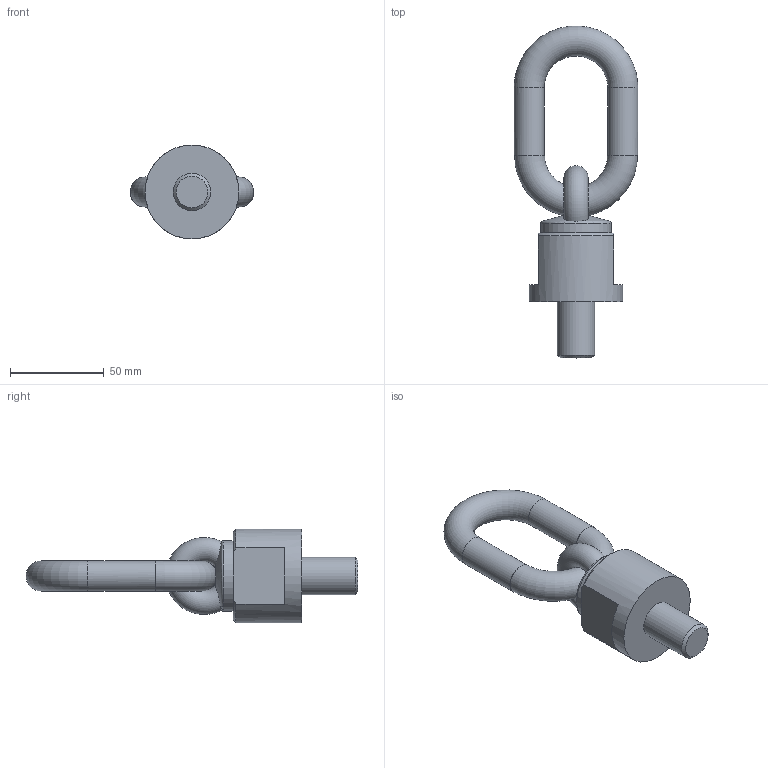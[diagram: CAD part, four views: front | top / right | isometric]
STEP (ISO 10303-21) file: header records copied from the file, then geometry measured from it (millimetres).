
FILE_DESCRIPTION( ( 'STEP AP203' ), '1' );
FILE_NAME( 'p:/temp/worker_2/temp/app_48_0201906261618327970660610e898ce_000000_00_00_000000/format_1/C8000202030.stp', '2019-06-26T14:18:35', ( '' ), ( '' ), ' ', 'PARTsolutions', ' ' );
FILE_SCHEMA( ( 'CONFIG_CONTROL_DESIGN' ) );
Length unit declared in the file: millimetre
Products named in the file (1): _C8000202030
Bounding box: 66 x 176.98 x 50 mm (x, y, z)
Volume: 137650.9 mm3; surface area: 25088.7 mm2
Topology: 1 solids, 1 shells, 26 faces, 66 edges, 41 vertices
Faces by surface type: plane 12, cone 5, cylinder 5, torus 4
Full cylindrical faces by diameter (mm): 16 x2, 20 x1, 37.6 x1, 50 x1
Entity records: 1086 total; most frequent: CARTESIAN_POINT 498, DIRECTION 114, ORIENTED_EDGE 96, AXIS2_PLACEMENT_3D 53, EDGE_CURVE 48, EDGE_LOOP 42, FACE_OUTER_BOUND 35, VERTEX_POINT 35
